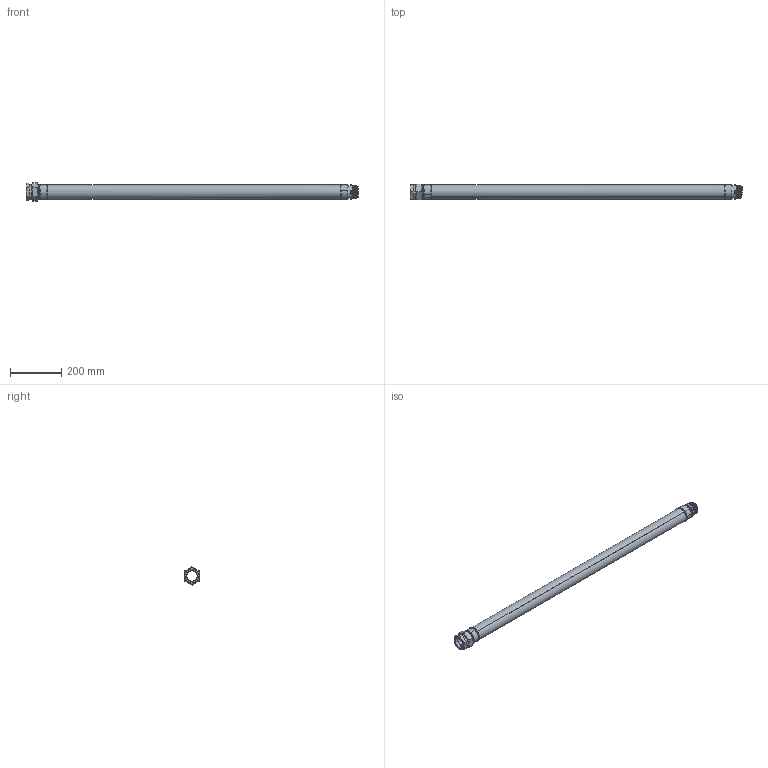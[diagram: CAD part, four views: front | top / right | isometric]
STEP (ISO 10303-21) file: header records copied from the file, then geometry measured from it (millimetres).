
FILE_DESCRIPTION (( 'STEP AP203' ), '1' );
FILE_NAME ('KP_T40-13S.step', '2011-08-08T11:46:44', ( '' ), ( '' ), 'SwSTEP 2.0', 'SolidWorks 2011', '' );
FILE_SCHEMA (( 'CONFIG_CONTROL_DESIGN' ));
Length unit declared in the file: millimetre
Products named in the file (1): KP_T40-13S
Bounding box: 1300 x 62 x 71.59 mm (x, y, z)
Volume: 630723.4 mm3; surface area: 448737.9 mm2
Topology: 1 solids, 2 shells, 154 faces, 384 edges, 246 vertices
Faces by surface type: cone 66, plane 54, cylinder 26, bspline 8
Entity records: 17197 total; most frequent: CARTESIAN_POINT 13592, ORIENTED_EDGE 768, DIRECTION 680, EDGE_CURVE 384, AXIS2_PLACEMENT_3D 268, VERTEX_POINT 246, EDGE_LOOP 170, FACE_OUTER_BOUND 154
